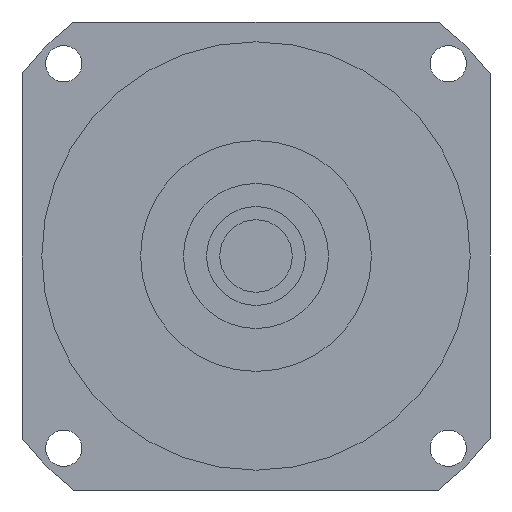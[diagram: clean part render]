
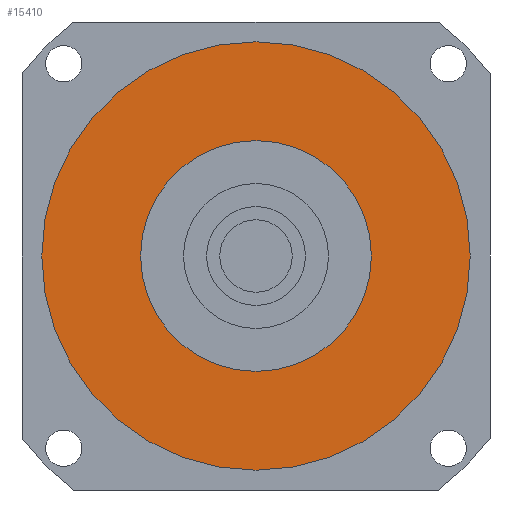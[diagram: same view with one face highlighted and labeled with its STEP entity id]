
A CAD part, left-side view. The second image highlights one B-rep face of the part: STEP entity #15410.
In plain terms, the highlighted planar face has unit normal (-1, 0, 0) as drawn and (0, 0, -1) by its records, which use the part's own axes.
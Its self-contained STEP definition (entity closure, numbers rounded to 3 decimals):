
#14830=CARTESIAN_POINT('',(65.,0.,-55.2));
#14840=VERTEX_POINT('',#14830);
#14930=CARTESIAN_POINT('',(-65.,0.,-55.2));
#14940=VERTEX_POINT('',#14930);
#14970=CARTESIAN_POINT('',(0.,0.,
-55.2));
#14980=DIRECTION('',(0.,0.,1.));
#14990=DIRECTION('',(0.,1.,0.));
#15000=AXIS2_PLACEMENT_3D('',#14970,#14980,#14990);
#15010=CIRCLE('',#15000,65.);
#15020=CARTESIAN_POINT('',(0.,65.,-55.2));
#15030=VERTEX_POINT('',#15020);
#15040=EDGE_CURVE('',#15030,#14940,#15010,.T.);
#15060=EDGE_CURVE('',#14840,#15030,#15010,.T.);
#15110=CARTESIAN_POINT('',(0.,0.,
-55.2));
#15120=DIRECTION('',(0.,0.,1.));
#15130=DIRECTION('',(-1.,0.,0.));
#15140=AXIS2_PLACEMENT_3D('',#15110,#15120,#15130);
#15150=PLANE('',#15140);
#15160=CARTESIAN_POINT('',(0.,0.,
-55.2));
#15170=DIRECTION('',(0.,0.,1.));
#15180=DIRECTION('',(0.,1.,0.));
#15190=AXIS2_PLACEMENT_3D('',#15160,#15170,#15180);
#15200=CIRCLE('',#15190,35.);
#15210=CARTESIAN_POINT('',(-35.,0.,-55.2));
#15220=VERTEX_POINT('',#15210);
#15230=CARTESIAN_POINT('',(35.,0.,-55.2));
#15240=VERTEX_POINT('',#15230);
#15250=EDGE_CURVE('',#15220,#15240,#15200,.T.);
#15260=ORIENTED_EDGE('',*,*,#15250,.T.);
#15270=CARTESIAN_POINT('',(0.,35.,-55.2));
#15280=VERTEX_POINT('',#15270);
#15290=EDGE_CURVE('',#15280,#15220,#15200,.T.);
#15300=ORIENTED_EDGE('',*,*,#15290,.T.);
#15310=EDGE_CURVE('',#15240,#15280,#15200,.T.);
#15320=ORIENTED_EDGE('',*,*,#15310,.T.);
#15330=EDGE_LOOP('',(#15320,#15300,#15260));
#15340=FACE_BOUND('',#15330,.T.);
#15350=ORIENTED_EDGE('',*,*,#15040,.F.);
#15360=EDGE_CURVE('',#14940,#14840,#15010,.T.);
#15370=ORIENTED_EDGE('',*,*,#15360,.F.);
#15380=ORIENTED_EDGE('',*,*,#15060,.F.);
#15390=EDGE_LOOP('',(#15380,#15370,#15350));
#15400=FACE_OUTER_BOUND('',#15390,.T.);
#15410=ADVANCED_FACE('',(#15340,#15400),#15150,.F.);
